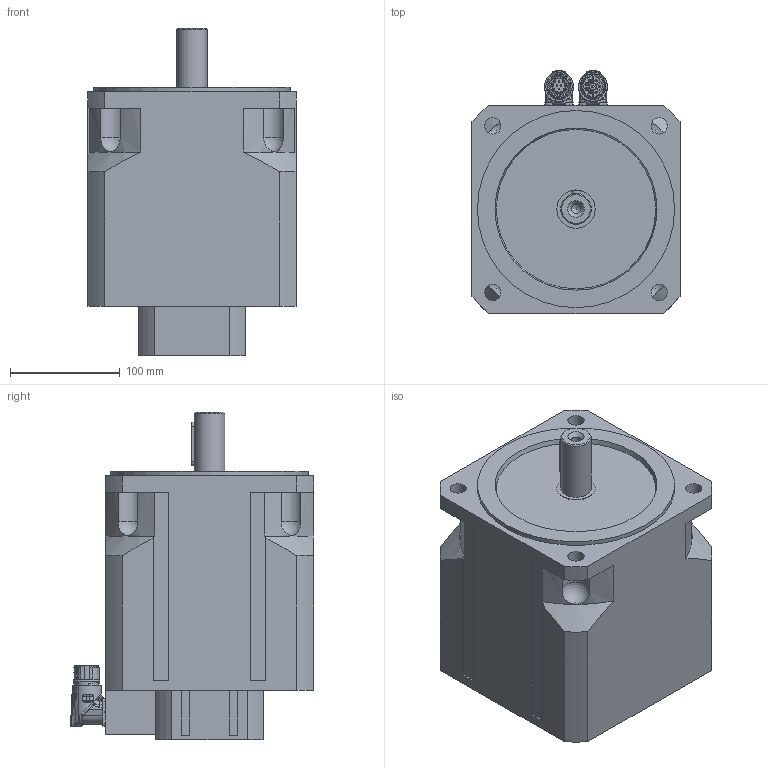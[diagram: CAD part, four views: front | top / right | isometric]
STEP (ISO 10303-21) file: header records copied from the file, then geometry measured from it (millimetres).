
FILE_DESCRIPTION((''),'2;1');
FILE_NAME('C:\PDF_output\N7028 02 P Z_5000_S1.stp','2013-04-18T11:24:55',('oslejsek'),(''),'Autodesk Inventor 2013','Autodesk Inventor 2013','');
FILE_SCHEMA(('AUTOMOTIVE_DESIGN { 1 0 10303 214 1 1 1 1 }'));
Length unit declared in the file: millimetre
Products named in the file (4): N7028 02 P Z_5000_S1; N7028 02 P_5000; BEW_0207_8-polig Stifte; AEW_0214_12-polig Stift
Assembly tree (3 placements, depth 2):
  N7028 02 P Z_5000_S1
    N7028 02 P_5000
    BEW_0207_8-polig Stifte
    AEW_0214_12-polig Stift
Bounding box: 190 x 222 x 299 mm (x, y, z)
Volume: 7413811.4 mm3; surface area: 269564.4 mm2
Topology: 3 solids, 3 shells, 960 faces, 2452 edges, 1559 vertices
Faces by surface type: cylinder 280, plane 279, bspline 264, cone 69, torus 44, sphere 24
Full cylindrical faces by diameter (mm): 1 x16, 1.18 x12, 1.2 x12, 1.3 x4, 2 x4, 2.15 x4, 2.7 x8, 3 x4, 4.5 x2, 5.8 x1, 5.9 x2, 6.8 x1, 8.376 x1, 15 x4, 15.2 x1, 17.4 x1, 19.1 x1, 19.8 x2, 19.9 x1, 20 x2, 21.15 x4, 21.6 x1, 28 x1, 35 x1, 180 x1
Entity records: 36706 total; most frequent: CARTESIAN_POINT 14827, ORIENTED_EDGE 4412, DIRECTION 4015, EDGE_CURVE 2206, AXIS2_PLACEMENT_3D 1648, VERTEX_POINT 1475, EDGE_LOOP 1205, FACE_OUTER_BOUND 958
